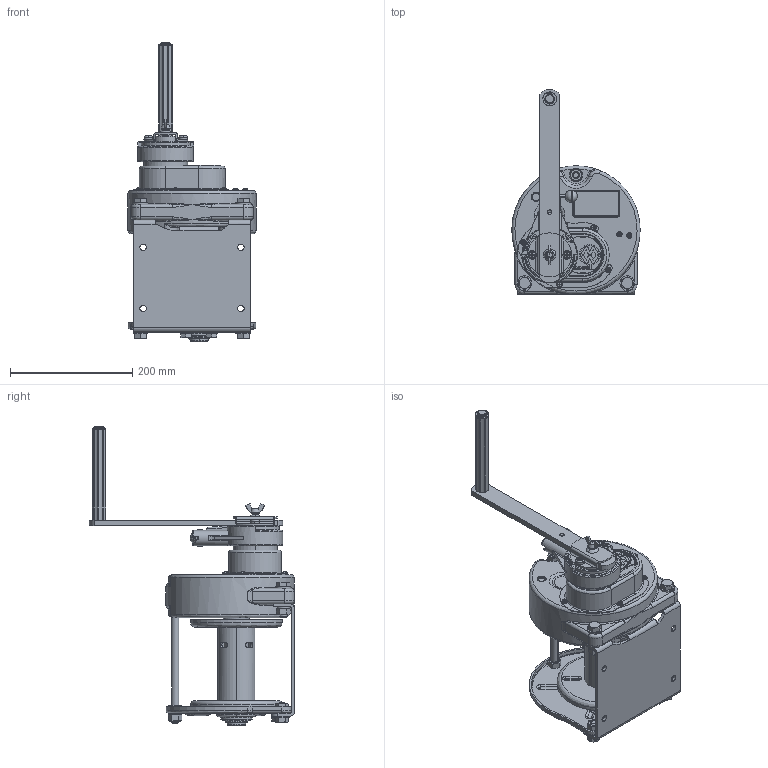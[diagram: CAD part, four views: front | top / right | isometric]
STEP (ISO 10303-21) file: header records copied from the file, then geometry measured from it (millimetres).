
FILE_DESCRIPTION( (''), '2;1');
FILE_NAME ('RST-3-SI.stp','2024-01-10T11:29:02',(''),(''),'spGate 19.8.2 (****-****-****-****)','','');
FILE_SCHEMA (('AUTOMOTIVE_DESIGN'));
Length unit declared in the file: millimetre
Products named in the file (3): Assembly; RST-3-SI-prt0; RST-3-SI-prt1
Assembly tree (2 placements, depth 2):
  Assembly
    RST-3-SI-prt0
    RST-3-SI-prt1
Bounding box: 209.96 x 335.43 x 489.2 mm (x, y, z)
Volume: 3894918.7 mm3; surface area: 609592.8 mm2
Topology: 2 solids, 2 shells, 2804 faces, 7243 edges, 4557 vertices
Faces by surface type: plane 1400, cylinder 820, bspline 471, sphere 113
Entity records: 153094 total; most frequent: CARTESIAN_POINT 28765, ORIENTED_EDGE 14350, DIRECTION 13856, COLOUR_RGB 9981, PRESENTATION_STYLE_ASSIGNMENT 9981, STYLED_ITEM 9981, EDGE_CURVE 7175, DRAUGHTING_PRE_DEFINED_CURVE_FONT 7175
